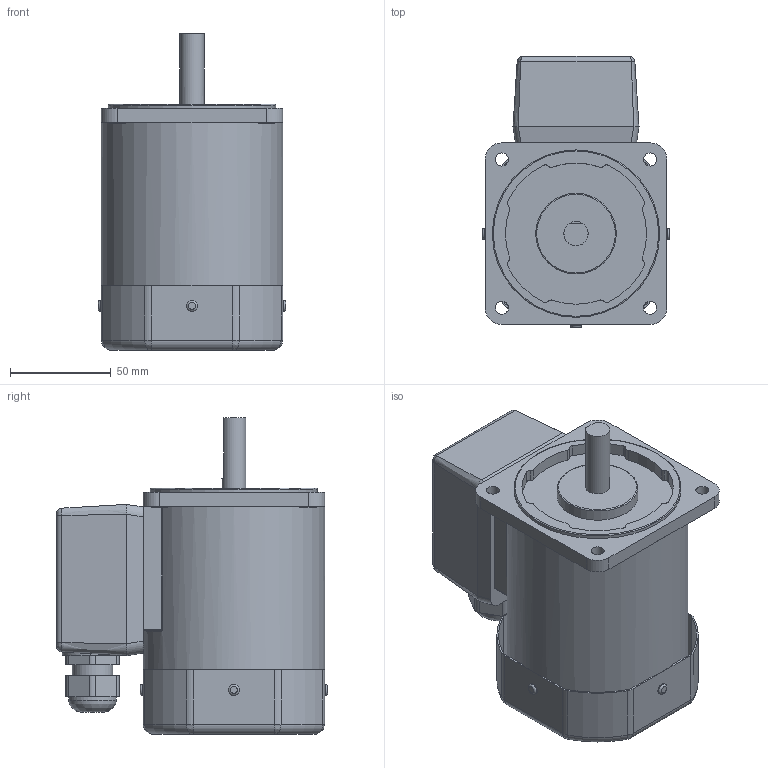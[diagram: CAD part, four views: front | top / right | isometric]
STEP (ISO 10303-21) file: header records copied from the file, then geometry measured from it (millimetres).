
FILE_DESCRIPTION((''),'2;1');
FILE_NAME('E:\2공장-도면\3D\표준형 3D(민규)\step file\K9IS60Fㅁ-T.stp','2014-11-13T09:44:09',('AHN'),(''),'Autodesk Inventor 2012','Autodesk Inventor 2012','');
FILE_SCHEMA(('CONFIG_CONTROL_DESIGN'));
Length unit declared in the file: millimetre
Products named in the file (3): K9IS60Fㅁ-T; K9IS60Fㅁ; TERMINAL BOX
Assembly tree (2 placements, depth 2):
  K9IS60Fㅁ-T
    K9IS60Fㅁ
    TERMINAL BOX
Bounding box: 93 x 134.5 x 157 mm (x, y, z)
Volume: 896356.4 mm3; surface area: 101515.8 mm2
Topology: 2 solids, 8 shells, 323 faces, 773 edges, 470 vertices
Faces by surface type: cylinder 151, plane 103, torus 48, bspline 21
Full cylindrical faces by diameter (mm): 5.5 x4, 6.5 x4, 8 x4, 12 x1, 20 x1, 23.5 x1, 40 x1, 83 x1, 90 x1
Entity records: 10513 total; most frequent: CARTESIAN_POINT 3019, DIRECTION 1584, ORIENTED_EDGE 1484, EDGE_CURVE 742, AXIS2_PLACEMENT_3D 619, VERTEX_POINT 466, EDGE_LOOP 396, VECTOR 346
